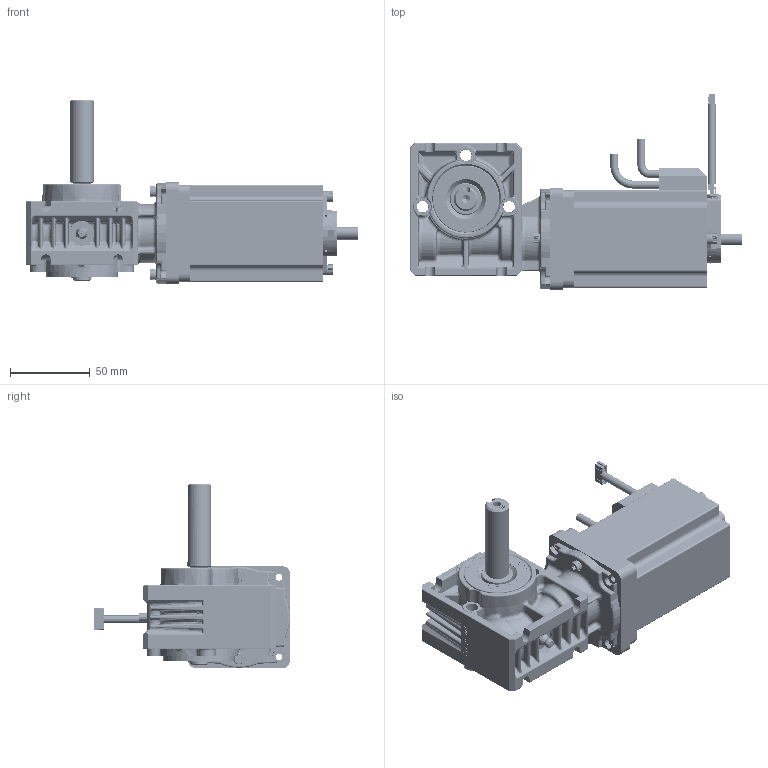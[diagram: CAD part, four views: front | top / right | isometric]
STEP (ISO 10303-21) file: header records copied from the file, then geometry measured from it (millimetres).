
FILE_DESCRIPTION (( 'STEP AP214' ), '1' );
FILE_NAME ('PBL60-50-GB28 - Encoder - Shaft.STEP', '2024-11-26T15:01:27', ( '' ), ( '' ), 'SwSTEP 2.0', 'SolidWorks 2023', '' );
FILE_SCHEMA (( 'AUTOMOTIVE_DESIGN' ));
Length unit declared in the file: millimetre
Products named in the file (1): PBL60-50-GB28 - Encoder - Shaft
Bounding box: 208 x 122.95 x 115.67 mm (x, y, z)
Surface area: 166352.4 mm2 (no closed solid volume)
Topology: 0 solids, 42 shells, 6745 faces, 17800 edges, 11301 vertices
Faces by surface type: plane 2781, cylinder 2212, bspline 1097, cone 362, torus 177, sphere 116
Entity records: 354348 total; most frequent: CARTESIAN_POINT 130099, ORIENTED_EDGE 35318, DIRECTION 24912, EDGE_CURVE 17661, VERTEX_POINT 11292, AXIS2_PLACEMENT_3D 9234, EDGE_LOOP 7291, B_SPLINE_CURVE_WITH_KNOTS 7155
